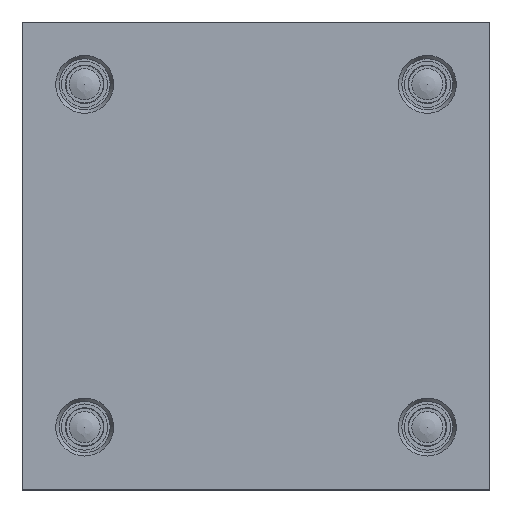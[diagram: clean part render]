
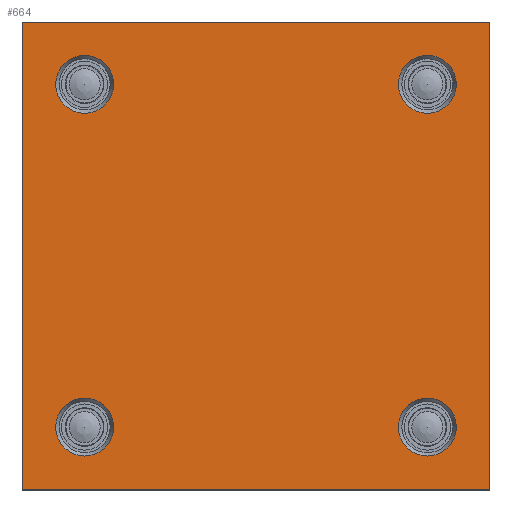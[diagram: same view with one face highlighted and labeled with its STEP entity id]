
A CAD part, top view. The second image highlights one B-rep face of the part: STEP entity #664.
In plain terms, the highlighted planar face has unit normal (0, 0, 1).
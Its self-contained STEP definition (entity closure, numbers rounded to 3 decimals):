
#664 = ADVANCED_FACE( '', ( #1379, #1380, #1381, #1382, #1383 ), #1384, .F. );
#1379 = FACE_BOUND( '', #2117, .T. );
#1380 = FACE_BOUND( '', #2118, .T. );
#1381 = FACE_BOUND( '', #2119, .T. );
#1382 = FACE_BOUND( '', #2120, .T. );
#1383 = FACE_OUTER_BOUND( '', #2121, .T. );
#1384 = PLANE( '', #2122 );
#2117 = EDGE_LOOP( '', ( #3647 ) );
#2118 = EDGE_LOOP( '', ( #3648 ) );
#2119 = EDGE_LOOP( '', ( #3649 ) );
#2120 = EDGE_LOOP( '', ( #3650 ) );
#2121 = EDGE_LOOP( '', ( #3651, #3652, #3653, #3654 ) );
#2122 = AXIS2_PLACEMENT_3D( '', #3655, #3656, #3657 );
#3647 = ORIENTED_EDGE( '', *, *, #4209, .T. );
#3648 = ORIENTED_EDGE( '', *, *, #4464, .T. );
#3649 = ORIENTED_EDGE( '', *, *, #4239, .T. );
#3650 = ORIENTED_EDGE( '', *, *, #4193, .T. );
#3651 = ORIENTED_EDGE( '', *, *, #4480, .T. );
#3652 = ORIENTED_EDGE( '', *, *, #4403, .F. );
#3653 = ORIENTED_EDGE( '', *, *, #4528, .F. );
#3654 = ORIENTED_EDGE( '', *, *, #4520, .T. );
#3655 = CARTESIAN_POINT( '', ( -75., 75., 0. ) );
#3656 = DIRECTION( '', ( 0., 0., -1. ) );
#3657 = DIRECTION( '', ( -1., 0., 0. ) );
#4193 = EDGE_CURVE( '', #5006, #5006, #5007, .T. );
#4209 = EDGE_CURVE( '', #5031, #5031, #5032, .T. );
#4239 = EDGE_CURVE( '', #5079, #5079, #5080, .T. );
#4403 = EDGE_CURVE( '', #5307, #5302, #5309, .T. );
#4464 = EDGE_CURVE( '', #5388, #5388, #5389, .T. );
#4480 = EDGE_CURVE( '', #5408, #5302, #5411, .T. );
#4520 = EDGE_CURVE( '', #5459, #5408, #5460, .T. );
#4528 = EDGE_CURVE( '', #5459, #5307, #5470, .T. );
#5006 = VERTEX_POINT( '', #6103 );
#5007 = CIRCLE( '', #6104, 9.3 );
#5031 = VERTEX_POINT( '', #6137 );
#5032 = CIRCLE( '', #6138, 9.3 );
#5079 = VERTEX_POINT( '', #6201 );
#5080 = CIRCLE( '', #6202, 9.3 );
#5302 = VERTEX_POINT( '', #6511 );
#5307 = VERTEX_POINT( '', #6518 );
#5309 = LINE( '', #6521, #6522 );
#5388 = VERTEX_POINT( '', #6611 );
#5389 = CIRCLE( '', #6612, 9.3 );
#5408 = VERTEX_POINT( '', #6633 );
#5411 = LINE( '', #6638, #6639 );
#5459 = VERTEX_POINT( '', #6698 );
#5460 = LINE( '', #6699, #6700 );
#5470 = LINE( '', #6715, #6716 );
#6103 = CARTESIAN_POINT( '', ( 45.7, 55., 0. ) );
#6104 = AXIS2_PLACEMENT_3D( '', #7083, #7084, #7085 );
#6137 = CARTESIAN_POINT( '', ( -64.3, 55., 0. ) );
#6138 = AXIS2_PLACEMENT_3D( '', #7101, #7102, #7103 );
#6201 = CARTESIAN_POINT( '', ( -64.3, -55., 0. ) );
#6202 = AXIS2_PLACEMENT_3D( '', #7141, #7142, #7143 );
#6511 = CARTESIAN_POINT( '', ( 75., -75., 0. ) );
#6518 = CARTESIAN_POINT( '', ( 75., 75., 0. ) );
#6521 = CARTESIAN_POINT( '', ( 75., 75., 0. ) );
#6522 = VECTOR( '', #7309, 1000. );
#6611 = CARTESIAN_POINT( '', ( 45.7, -55., 0. ) );
#6612 = AXIS2_PLACEMENT_3D( '', #7383, #7384, #7385 );
#6633 = CARTESIAN_POINT( '', ( -75., -75., 0. ) );
#6638 = CARTESIAN_POINT( '', ( -75., -75., 0. ) );
#6639 = VECTOR( '', #7402, 1000. );
#6698 = CARTESIAN_POINT( '', ( -75., 75., 0. ) );
#6699 = CARTESIAN_POINT( '', ( -75., 75., 0. ) );
#6700 = VECTOR( '', #7438, 1000. );
#6715 = CARTESIAN_POINT( '', ( -75., 75., 0. ) );
#6716 = VECTOR( '', #7444, 1000. );
#7083 = CARTESIAN_POINT( '', ( 55., 55., 0. ) );
#7084 = DIRECTION( '', ( 0., 0., -1. ) );
#7085 = DIRECTION( '', ( -1., 0., 0. ) );
#7101 = CARTESIAN_POINT( '', ( -55., 55., 0. ) );
#7102 = DIRECTION( '', ( 0., 0., -1. ) );
#7103 = DIRECTION( '', ( -1., 0., 0. ) );
#7141 = CARTESIAN_POINT( '', ( -55., -55., 0. ) );
#7142 = DIRECTION( '', ( 0., 0., -1. ) );
#7143 = DIRECTION( '', ( -1., 0., 0. ) );
#7309 = DIRECTION( '', ( 0., -1., 0. ) );
#7383 = CARTESIAN_POINT( '', ( 55., -55., 0. ) );
#7384 = DIRECTION( '', ( 0., 0., -1. ) );
#7385 = DIRECTION( '', ( -1., 0., 0. ) );
#7402 = DIRECTION( '', ( 1., 0., 0. ) );
#7438 = DIRECTION( '', ( 0., -1., 0. ) );
#7444 = DIRECTION( '', ( 1., 0., 0. ) );
